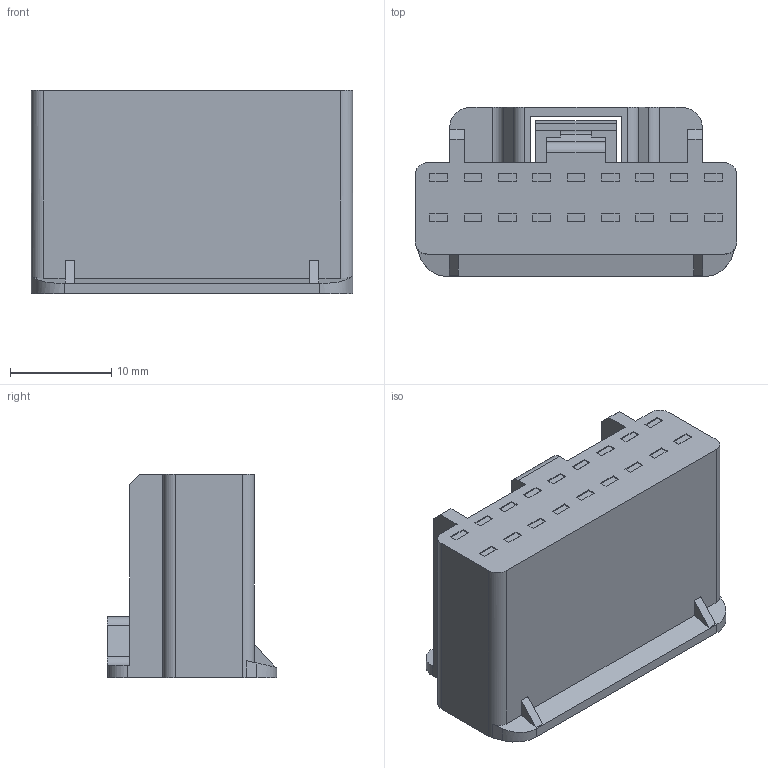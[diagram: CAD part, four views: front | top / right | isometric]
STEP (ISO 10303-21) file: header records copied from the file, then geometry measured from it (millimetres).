
FILE_DESCRIPTION (( 'STEP AP214' ), '1' );
FILE_NAME ('7187-8856#11#YC3S-MODEL.STEP', '2024-10-03T06:12:43', ( '' ), ( '' ), 'SwSTEP 2.0', 'SolidWorks 2022', '' );
FILE_SCHEMA (( 'AUTOMOTIVE_DESIGN' ));
Length unit declared in the file: millimetre
Products named in the file (1): 7187-8856#11#YC3S-MODEL
Bounding box: 31.8 x 16.75 x 20.1 mm (x, y, z)
Volume: 6533.6 mm3; surface area: 3055 mm2
Topology: 1 solids, 1 shells, 256 faces, 660 edges, 440 vertices
Faces by surface type: plane 238, cylinder 18
Entity records: 7698 total; most frequent: CARTESIAN_POINT 1369, ORIENTED_EDGE 1320, DIRECTION 1206, EDGE_CURVE 660, LINE 620, VECTOR 620, VERTEX_POINT 440, AXIS2_PLACEMENT_3D 293
